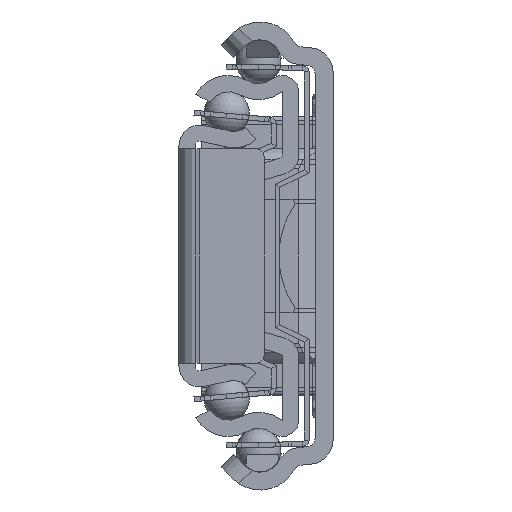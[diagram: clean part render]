
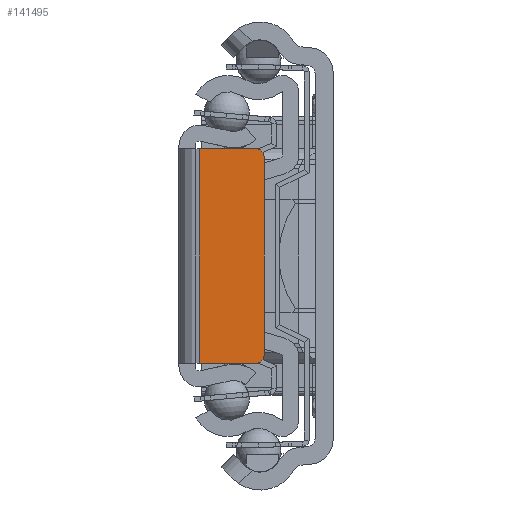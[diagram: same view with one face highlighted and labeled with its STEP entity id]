
A CAD part, left-side view. The second image highlights one B-rep face of the part: STEP entity #141495.
In plain terms, the highlighted planar face has unit normal (-1, 0, 0).
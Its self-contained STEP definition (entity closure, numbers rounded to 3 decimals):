
#137266=CARTESIAN_POINT('',(0.,-9.,-12.25));
#137267=DIRECTION('',(-1.,0.,0.));
#137268=DIRECTION('',(0.,0.,-1.));
#137269=AXIS2_PLACEMENT_3D('',#137266,#137267,#137268);
#137271=DIRECTION('',(0.,0.,-1.));
#137272=VECTOR('',#137271,26.5);
#137273=CARTESIAN_POINT('',(0.,-2.,13.25));
#137274=LINE('',#137273,#137272);
#137275=CARTESIAN_POINT('',(0.,-9.,12.25));
#137276=DIRECTION('',(-1.,0.,0.));
#137277=DIRECTION('',(0.,-1.,0.));
#137278=AXIS2_PLACEMENT_3D('',#137275,#137276,#137277);
#137297=DIRECTION('',(0.,-1.,0.));
#137298=VECTOR('',#137297,7.);
#137299=CARTESIAN_POINT('',(0.,-2.,-13.25));
#137300=LINE('',#137299,#137298);
#138057=DIRECTION('',(0.,-1.,0.));
#138058=VECTOR('',#138057,7.);
#138059=CARTESIAN_POINT('',(0.,-2.,13.25));
#138060=LINE('',#138059,#138058);
#138078=DIRECTION('',(0.,0.,1.));
#138079=VECTOR('',#138078,24.5);
#138080=CARTESIAN_POINT('',(0.,-10.,-12.25));
#138081=LINE('',#138080,#138079);
#140600=CARTESIAN_POINT('',(0.,-2.,-13.25));
#140602=VERTEX_POINT('',#140600);
#140609=CARTESIAN_POINT('',(0.,-2.,13.25));
#140611=VERTEX_POINT('',#140609);
#140628=CARTESIAN_POINT('',(0.,-9.,-13.25));
#140629=CARTESIAN_POINT('',(0.,-10.,-12.25));
#140630=VERTEX_POINT('',#140628);
#140631=VERTEX_POINT('',#140629);
#140640=CARTESIAN_POINT('',(0.,-10.,12.25));
#140641=VERTEX_POINT('',#140640);
#140642=CARTESIAN_POINT('',(0.,-9.,13.25));
#140643=VERTEX_POINT('',#140642);
#141477=CARTESIAN_POINT('',(0.,0.5,-13.25));
#141478=DIRECTION('',(-1.,0.,0.));
#141479=DIRECTION('',(0.,-1.,0.));
#141480=AXIS2_PLACEMENT_3D('',#141477,#141478,#141479);
#141481=PLANE('',#141480);
#141482=ORIENTED_EDGE('',*,*,#141467,.F.);
#141484=ORIENTED_EDGE('',*,*,#141483,.F.);
#141486=ORIENTED_EDGE('',*,*,#141485,.F.);
#141488=ORIENTED_EDGE('',*,*,#141487,.T.);
#141490=ORIENTED_EDGE('',*,*,#141489,.F.);
#141492=ORIENTED_EDGE('',*,*,#141491,.F.);
#141493=EDGE_LOOP('',(#141482,#141484,#141486,#141488,#141490,#141492));
#141494=FACE_OUTER_BOUND('',#141493,.F.);
#137270=CIRCLE('',#137269,1.);
#137279=CIRCLE('',#137278,1.);
#141467=EDGE_CURVE('',#140630,#140631,#137270,.T.);
#141483=EDGE_CURVE('',#140602,#140630,#137300,.T.);
#141485=EDGE_CURVE('',#140611,#140602,#137274,.T.);
#141487=EDGE_CURVE('',#140611,#140643,#138060,.T.);
#141489=EDGE_CURVE('',#140641,#140643,#137279,.T.);
#141491=EDGE_CURVE('',#140631,#140641,#138081,.T.);
#141495=ADVANCED_FACE('',(#141494),#141481,.T.);
